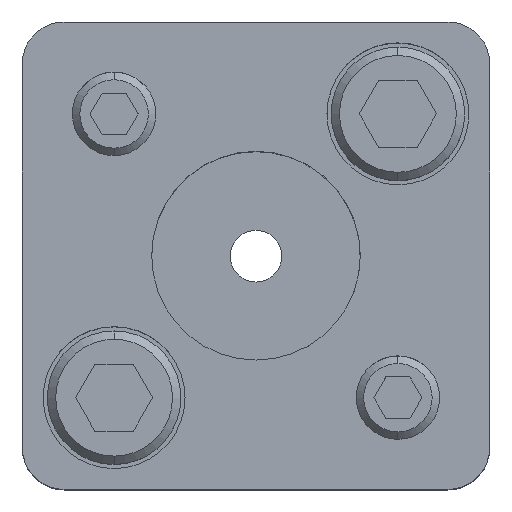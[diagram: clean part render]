
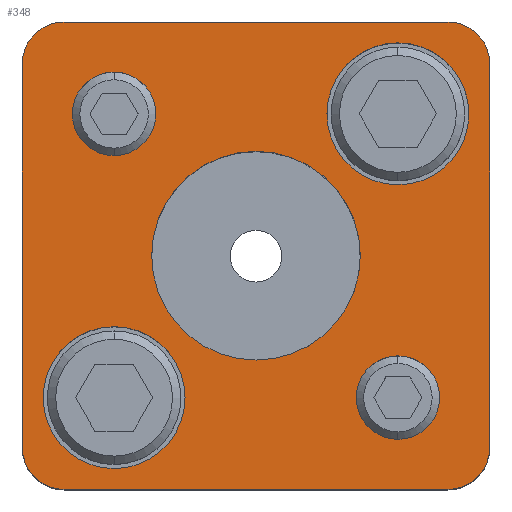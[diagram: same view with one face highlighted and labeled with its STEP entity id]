
A CAD part, top view. The second image highlights one B-rep face of the part: STEP entity #348.
In plain terms, the highlighted planar face has unit normal (0, 0, 1).
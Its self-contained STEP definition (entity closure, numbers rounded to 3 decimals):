
#173=PLANE('',#2995);
#248=FACE_BOUND('',#745,.T.);
#249=FACE_BOUND('',#746,.T.);
#250=FACE_BOUND('',#747,.T.);
#251=FACE_BOUND('',#748,.T.);
#252=FACE_BOUND('',#749,.T.);
#253=FACE_BOUND('',#750,.T.);
#348=ADVANCED_FACE('',(#248,#249,#250,#251,#252,#253),#173,.T.);
#745=EDGE_LOOP('',(#1597,#1598,#1599,#1600,#1601,#1602,#1603,#1604));
#746=EDGE_LOOP('',(#1605,#1606));
#747=EDGE_LOOP('',(#1607,#1608));
#748=EDGE_LOOP('',(#1609,#1610));
#749=EDGE_LOOP('',(#1611,#1612));
#750=EDGE_LOOP('',(#1613,#1614));
#934=LINE('',#4430,#1142);
#935=LINE('',#4434,#1143);
#936=LINE('',#4438,#1144);
#937=LINE('',#4442,#1145);
#1142=VECTOR('',#3559,1.);
#1143=VECTOR('',#3562,1.);
#1144=VECTOR('',#3565,1.);
#1145=VECTOR('',#3568,1.);
#1597=ORIENTED_EDGE('',*,*,#2454,.T.);
#1598=ORIENTED_EDGE('',*,*,#2455,.T.);
#1599=ORIENTED_EDGE('',*,*,#2456,.T.);
#1600=ORIENTED_EDGE('',*,*,#2457,.T.);
#1601=ORIENTED_EDGE('',*,*,#2458,.T.);
#1602=ORIENTED_EDGE('',*,*,#2459,.T.);
#1603=ORIENTED_EDGE('',*,*,#2460,.T.);
#1604=ORIENTED_EDGE('',*,*,#2461,.T.);
#1605=ORIENTED_EDGE('',*,*,#2462,.F.);
#1606=ORIENTED_EDGE('',*,*,#2463,.F.);
#1607=ORIENTED_EDGE('',*,*,#2464,.F.);
#1608=ORIENTED_EDGE('',*,*,#2465,.F.);
#1609=ORIENTED_EDGE('',*,*,#2440,.F.);
#1610=ORIENTED_EDGE('',*,*,#2436,.F.);
#1611=ORIENTED_EDGE('',*,*,#2434,.F.);
#1612=ORIENTED_EDGE('',*,*,#2430,.F.);
#1613=ORIENTED_EDGE('',*,*,#2466,.T.);
#1614=ORIENTED_EDGE('',*,*,#2467,.T.);
#2135=VERTEX_POINT('',#4378);
#2136=VERTEX_POINT('',#4379);
#2139=VERTEX_POINT('',#4391);
#2140=VERTEX_POINT('',#4392);
#2151=VERTEX_POINT('',#4428);
#2152=VERTEX_POINT('',#4429);
#2153=VERTEX_POINT('',#4431);
#2154=VERTEX_POINT('',#4433);
#2155=VERTEX_POINT('',#4435);
#2156=VERTEX_POINT('',#4437);
#2157=VERTEX_POINT('',#4439);
#2158=VERTEX_POINT('',#4441);
#2159=VERTEX_POINT('',#4444);
#2160=VERTEX_POINT('',#4445);
#2161=VERTEX_POINT('',#4448);
#2162=VERTEX_POINT('',#4449);
#2163=VERTEX_POINT('',#4452);
#2164=VERTEX_POINT('',#4453);
#2430=EDGE_CURVE('',#2135,#2136,#2735,.T.);
#2434=EDGE_CURVE('',#2136,#2135,#2737,.T.);
#2436=EDGE_CURVE('',#2139,#2140,#2739,.T.);
#2440=EDGE_CURVE('',#2140,#2139,#2741,.T.);
#2454=EDGE_CURVE('',#2151,#2152,#2751,.T.);
#2455=EDGE_CURVE('',#2152,#2153,#934,.T.);
#2456=EDGE_CURVE('',#2153,#2154,#2752,.T.);
#2457=EDGE_CURVE('',#2154,#2155,#935,.T.);
#2458=EDGE_CURVE('',#2155,#2156,#2753,.T.);
#2459=EDGE_CURVE('',#2156,#2157,#936,.T.);
#2460=EDGE_CURVE('',#2157,#2158,#2754,.T.);
#2461=EDGE_CURVE('',#2158,#2151,#937,.T.);
#2462=EDGE_CURVE('',#2159,#2160,#2755,.T.);
#2463=EDGE_CURVE('',#2160,#2159,#2756,.T.);
#2464=EDGE_CURVE('',#2161,#2162,#2757,.T.);
#2465=EDGE_CURVE('',#2162,#2161,#2758,.T.);
#2466=EDGE_CURVE('',#2163,#2164,#2759,.T.);
#2467=EDGE_CURVE('',#2164,#2163,#2760,.T.);
#2735=CIRCLE('',#2959,5.);
#2737=CIRCLE('',#2962,5.);
#2739=CIRCLE('',#2966,5.);
#2741=CIRCLE('',#2969,5.);
#2751=CIRCLE('',#2985,5.);
#2752=CIRCLE('',#2986,5.);
#2753=CIRCLE('',#2987,5.);
#2754=CIRCLE('',#2988,5.);
#2755=CIRCLE('',#2989,8.5);
#2756=CIRCLE('',#2990,8.5);
#2757=CIRCLE('',#2991,8.5);
#2758=CIRCLE('',#2992,8.5);
#2759=CIRCLE('',#2993,12.5);
#2760=CIRCLE('',#2994,12.5);
#2959=AXIS2_PLACEMENT_3D('',#4377,#3497,#3498);
#2962=AXIS2_PLACEMENT_3D('',#4386,#3505,#3506);
#2966=AXIS2_PLACEMENT_3D('',#4390,#3513,#3514);
#2969=AXIS2_PLACEMENT_3D('',#4399,#3521,#3522);
#2985=AXIS2_PLACEMENT_3D('',#4427,#3557,#3558);
#2986=AXIS2_PLACEMENT_3D('',#4432,#3560,#3561);
#2987=AXIS2_PLACEMENT_3D('',#4436,#3563,#3564);
#2988=AXIS2_PLACEMENT_3D('',#4440,#3566,#3567);
#2989=AXIS2_PLACEMENT_3D('',#4443,#3569,#3570);
#2990=AXIS2_PLACEMENT_3D('',#4446,#3571,#3572);
#2991=AXIS2_PLACEMENT_3D('',#4447,#3573,#3574);
#2992=AXIS2_PLACEMENT_3D('',#4450,#3575,#3576);
#2993=AXIS2_PLACEMENT_3D('',#4451,#3577,#3578);
#2994=AXIS2_PLACEMENT_3D('',#4454,#3579,#3580);
#2995=AXIS2_PLACEMENT_3D('',#4455,#3581,#3582);
#3497=DIRECTION('',(0.,0.,1.));
#3498=DIRECTION('',(-1.,0.,0.));
#3505=DIRECTION('',(0.,0.,1.));
#3506=DIRECTION('',(1.,0.,0.));
#3513=DIRECTION('',(0.,0.,1.));
#3514=DIRECTION('',(-1.,0.,0.));
#3521=DIRECTION('',(0.,0.,1.));
#3522=DIRECTION('',(1.,0.,0.));
#3557=DIRECTION('',(0.,0.,1.));
#3558=DIRECTION('',(-0.707,0.707,0.));
#3559=DIRECTION('',(0.,1.,0.));
#3560=DIRECTION('',(0.,0.,1.));
#3561=DIRECTION('',(-0.707,-0.707,0.));
#3562=DIRECTION('',(-1.,0.,0.));
#3563=DIRECTION('',(0.,0.,1.));
#3564=DIRECTION('',(0.707,-0.707,0.));
#3565=DIRECTION('',(0.,-1.,0.));
#3566=DIRECTION('',(0.,0.,1.));
#3567=DIRECTION('',(0.707,0.707,0.));
#3568=DIRECTION('',(1.,0.,0.));
#3569=DIRECTION('',(0.,0.,1.));
#3570=DIRECTION('',(1.,0.,0.));
#3571=DIRECTION('',(0.,0.,1.));
#3572=DIRECTION('',(-1.,0.,0.));
#3573=DIRECTION('',(0.,0.,1.));
#3574=DIRECTION('',(1.,0.,0.));
#3575=DIRECTION('',(0.,0.,1.));
#3576=DIRECTION('',(-1.,0.,0.));
#3577=DIRECTION('',(0.,0.,-1.));
#3578=DIRECTION('',(-1.,0.,0.));
#3579=DIRECTION('',(0.,0.,-1.));
#3580=DIRECTION('',(1.,0.,0.));
#3581=DIRECTION('',(0.,0.,1.));
#3582=DIRECTION('',(-1.,0.,0.));
#4377=CARTESIAN_POINT('',(17.,-17.,40.));
#4378=CARTESIAN_POINT('',(17.,-22.,40.));
#4379=CARTESIAN_POINT('',(17.,-12.,40.));
#4386=CARTESIAN_POINT('',(17.,-17.,40.));
#4390=CARTESIAN_POINT('',(-17.,17.,40.));
#4391=CARTESIAN_POINT('',(-17.,12.,40.));
#4392=CARTESIAN_POINT('',(-17.,22.,40.));
#4399=CARTESIAN_POINT('',(-17.,17.,40.));
#4427=CARTESIAN_POINT('',(23.,-23.,40.));
#4428=CARTESIAN_POINT('',(23.,-28.,40.));
#4429=CARTESIAN_POINT('',(28.,-23.,40.));
#4430=CARTESIAN_POINT('',(28.,23.,40.));
#4431=CARTESIAN_POINT('',(28.,23.,40.));
#4432=CARTESIAN_POINT('',(23.,23.,40.));
#4433=CARTESIAN_POINT('',(23.,28.,40.));
#4434=CARTESIAN_POINT('',(-23.,28.,40.));
#4435=CARTESIAN_POINT('',(-23.,28.,40.));
#4436=CARTESIAN_POINT('',(-23.,23.,40.));
#4437=CARTESIAN_POINT('',(-28.,23.,40.));
#4438=CARTESIAN_POINT('',(-28.,23.,40.));
#4439=CARTESIAN_POINT('',(-28.,-23.,40.));
#4440=CARTESIAN_POINT('',(-23.,-23.,40.));
#4441=CARTESIAN_POINT('',(-23.,-28.,40.));
#4442=CARTESIAN_POINT('',(-23.,-28.,40.));
#4443=CARTESIAN_POINT('',(17.,17.,40.));
#4444=CARTESIAN_POINT('',(17.,25.5,40.));
#4445=CARTESIAN_POINT('',(17.,8.5,40.));
#4446=CARTESIAN_POINT('',(17.,17.,40.));
#4447=CARTESIAN_POINT('',(-17.,-17.,40.));
#4448=CARTESIAN_POINT('',(-17.,-8.5,40.));
#4449=CARTESIAN_POINT('',(-17.,-25.5,40.));
#4450=CARTESIAN_POINT('',(-17.,-17.,40.));
#4451=CARTESIAN_POINT('',(0.,0.,40.));
#4452=CARTESIAN_POINT('',(0.,12.5,40.));
#4453=CARTESIAN_POINT('',(0.,-12.5,40.));
#4454=CARTESIAN_POINT('',(0.,0.,40.));
#4455=CARTESIAN_POINT('',(23.,-28.,40.));
